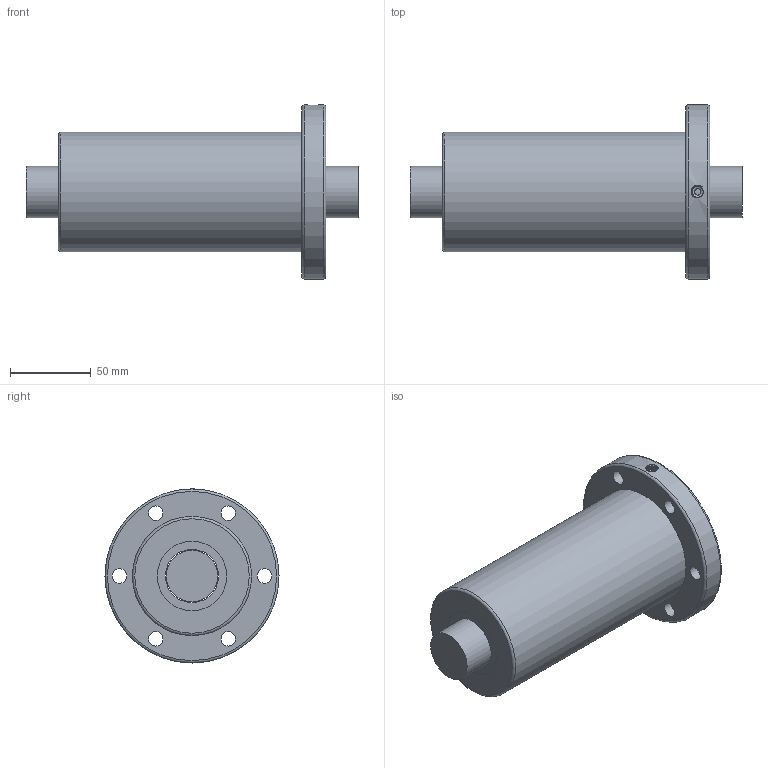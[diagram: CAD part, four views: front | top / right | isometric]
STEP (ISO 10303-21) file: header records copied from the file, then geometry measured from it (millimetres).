
FILE_DESCRIPTION(/* description */ ('Unknown','CAx-IF Rec.Pracs.---Representation and Presentation of Product Manufacturing Information (PMI)---4.0---2014-10-13','CAx-IF Rec.Pracs.---3D Tessellated Geometry---0.4---2014-09-14','2;1'),/* implementation_level */ '2;1');
FILE_NAME(/* name */ 'OFV03210-4.8',/* time_stamp */ '2020-12-08T11:54:08+08:00',/* author */ ('Unknown'),/* organization */ ('Unknown'),/* preprocessor_version */ 'ST-DEVELOPER v16.7',/* originating_system */ 'Solid Edge',/* authorisation */ 'Unknown');
FILE_SCHEMA (('AP242_MANAGED_MODEL_BASED_3D_ENGINEERING_MIM_LF { 1 0 10303 442 1 1 4 }'));
Length unit declared in the file: millimetre
Products named in the file (1): OFV03210-4.8
Bounding box: 206 x 108 x 108 mm (x, y, z)
Volume: 798164.6 mm3; surface area: 99041.1 mm2
Topology: 2 solids, 2 shells, 42 faces, 82 edges, 53 vertices
Faces by surface type: cylinder 22, plane 14, torus 3, bspline 2, cone 1
Full cylindrical faces by diameter (mm): 4 x1, 6.917 x1, 9 x6, 14 x6, 32 x1, 33 x1, 43 x2, 74 x1, 108 x1
Entity records: 2878 total; most frequent: CARTESIAN_POINT 2008, DIRECTION 176, ORIENTED_EDGE 110, EDGE_LOOP 91, FACE_BOUND 91, AXIS2_PLACEMENT_3D 89, EDGE_CURVE 55, VERTEX_POINT 50
